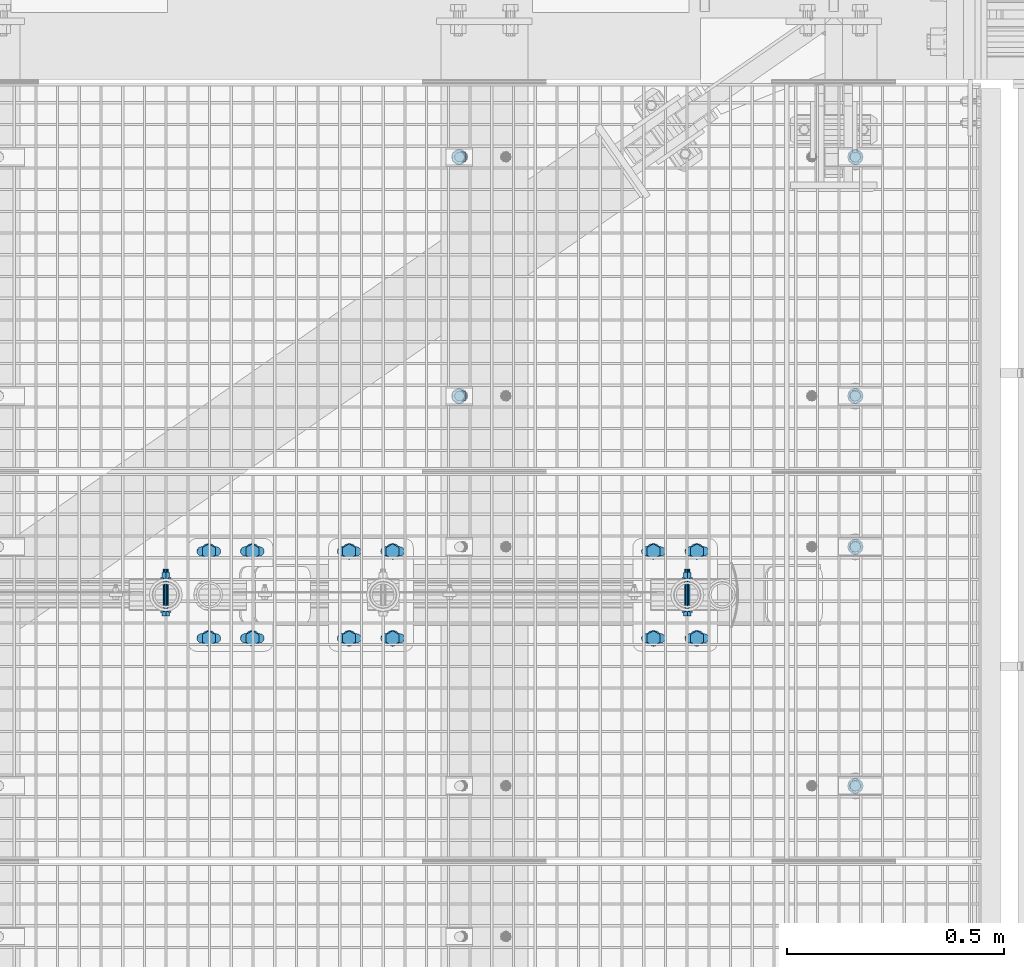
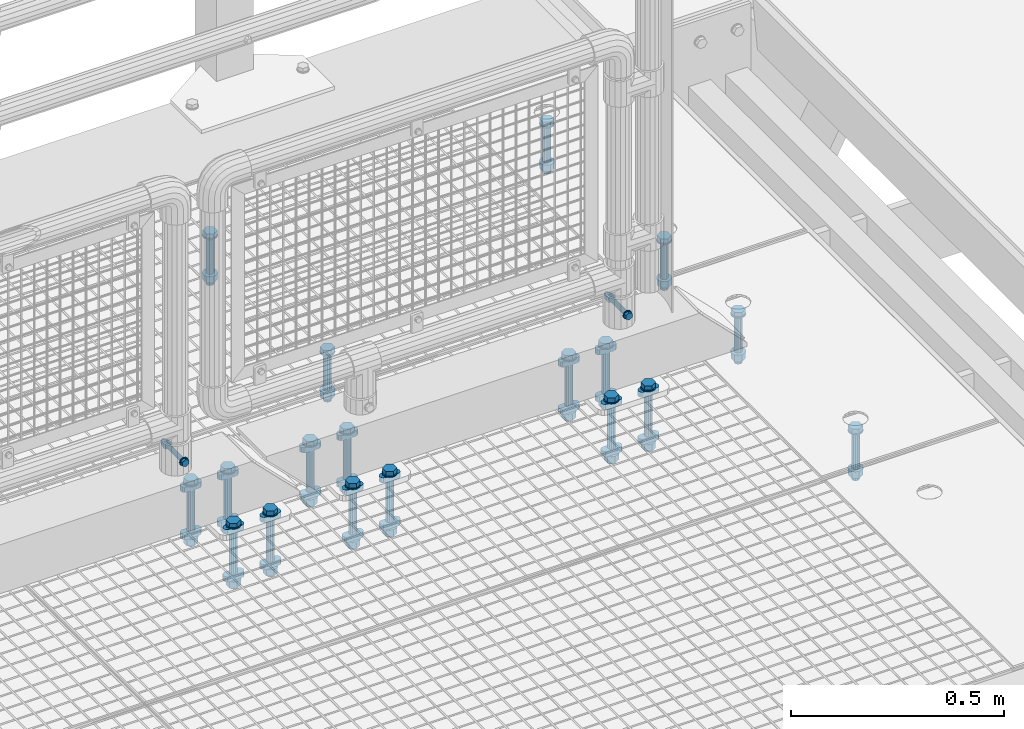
# One storey, part 56 of 1530: 8 mechanical fasteners.
"""IFC2X3 building model written with IfcOpenShell, lengths in millimetres."""

from ifc_helpers import new_model, si_unit, frame, origin_with_axes, place, context, subcontext, project, spatial, faceted_brep, source, transform, mapped, material, type_object, element, save


model = new_model("IFC2X3")

# Units and contexts
model_context = context("Model", 3, precision=1e-05, world=origin_with_axes())
body_context = subcontext(model_context, "Body", "Model", "MODEL_VIEW")
ifc_project = project(units=[si_unit("LENGTHUNIT", "METRE", prefix="MILLI"), si_unit("AREAUNIT", "SQUARE_METRE"), si_unit("VOLUMEUNIT", "CUBIC_METRE"), si_unit("MASSUNIT", "GRAM", prefix="KILO"), si_unit("TIMEUNIT", "SECOND"), si_unit("PLANEANGLEUNIT", "RADIAN"), si_unit("SOLIDANGLEUNIT", "STERADIAN"), si_unit("THERMODYNAMICTEMPERATUREUNIT", "DEGREE_CELSIUS"), si_unit("LUMINOUSINTENSITYUNIT", "LUMEN")], contexts=[model_context])

# Site, building, storey
site_placement = place(None, origin_with_axes())
site = spatial("IfcSite", under=ifc_project, at=site_placement, Name="Brattvåg", CompositionType="ELEMENT")
building_placement = place(site_placement, origin_with_axes())
building = spatial("IfcBuilding", under=site, at=building_placement, Name="Undefined", CompositionType="ELEMENT")
storey_placement = place(building_placement, origin_with_axes())
storey = spatial("IfcBuildingStorey", under=building, at=storey_placement, Name="Undefined", CompositionType="ELEMENT", Elevation=0.0)

# Mechanical fasteners
ifc_material = material(Name="8")
mechanical_fastener_type = type_object("IfcMechanicalFastenerType", Name="Bolt assembly")
shared_shape_1 = source(origin_with_axes(), body_context, "Body", "Brep", [
    faceted_brep([(17.3205080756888, -10.5, 0.0), (8.66025403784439, -10.5, 15.0), (-8.66025403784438, -10.5, 15.0), (-17.3205080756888, -10.5, 2.12115047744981e-15), (-8.66025403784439, -10.5, -15.0), (8.66025403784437, -10.5, -15.0), (8.66025403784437, 2.0, -15.0), (-8.66025403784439, 2.0, -15.0), (-17.3205080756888, 2.0, 2.12115047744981e-15), (-8.66025403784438, 2.0, 15.0), (8.66025403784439, 2.0, 15.0), (17.3205080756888, 2.0, 0.0), (10.0, 2.0, 0.0), (8.66025403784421, 2.0, 5.0000000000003), (4.9999999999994, 2.0, 8.66025403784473), (-1.03633598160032e-12, 2.0, 10.0), (-5.00000000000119, 2.0, 8.6602540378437), (-8.66025403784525, 2.0, 4.99999999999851), (-10.0, 2.0, -2.07267196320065e-12), (-8.66025403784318, 2.0, -5.00000000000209), (-4.99999999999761, 2.0, -8.66025403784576), (3.09790571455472e-12, 2.0, -10.0), (5.00000000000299, 2.0, -8.66025403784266), (8.66025403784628, 2.0, -4.99999999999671), (8.66025403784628, 142.0, -4.99999999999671), (5.00000000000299, 142.0, -8.66025403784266), (3.09790571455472e-12, 142.0, -10.0), (-4.99999999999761, 142.0, -8.66025403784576), (-8.66025403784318, 142.0, -5.00000000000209), (-10.0, 142.0, -2.07267196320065e-12), (-8.66025403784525, 142.0, 4.99999999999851), (-5.00000000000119, 142.0, 8.6602540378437), (-1.03633598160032e-12, 142.0, 10.0), (4.9999999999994, 142.0, 8.66025403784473), (8.66025403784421, 142.0, 5.0000000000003), (10.0, 142.0, 0.0), (18.5, 2.0, 0.0), (16.0214699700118, 2.0, 9.25000000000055), (9.2499999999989, 2.0, 16.0214699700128), (-1.9172215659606e-12, 2.0, 18.5), (-9.25000000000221, 2.0, 16.0214699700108), (-16.0214699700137, 2.0, 9.24999999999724), (-18.5, 2.0, -3.83444313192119e-12), (-16.0214699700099, 2.0, -9.25000000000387), (-9.24999999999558, 2.0, -16.0214699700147), (5.73112557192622e-12, 2.0, -18.5), (9.25000000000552, 2.0, -16.0214699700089), (16.0214699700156, 2.0, -9.24999999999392), (16.0214699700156, 5.0, -9.24999999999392), (9.25000000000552, 5.0, -16.0214699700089), (5.73112557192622e-12, 5.0, -18.5), (-9.24999999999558, 5.0, -16.0214699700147), (-16.0214699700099, 5.0, -9.25000000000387), (-18.5, 5.0, -3.83444313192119e-12), (-16.0214699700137, 5.0, 9.24999999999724), (-9.25000000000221, 5.0, 16.0214699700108), (-1.9172215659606e-12, 5.0, 18.5), (9.2499999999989, 5.0, 16.0214699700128), (16.0214699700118, 5.0, 9.25000000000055), (18.5, 5.0, 0.0), (18.5, 109.998931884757, 0.0), (16.0214699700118, 109.998931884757, 9.25000000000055), (9.2499999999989, 109.998931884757, 16.0214699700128), (-1.9172215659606e-12, 109.998931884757, 18.5), (-9.25000000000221, 109.998931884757, 16.0214699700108), (-16.0214699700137, 109.998931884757, 9.24999999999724), (-18.5, 109.998931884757, -3.83444313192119e-12), (-16.0214699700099, 109.998931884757, -9.25000000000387), (-9.24999999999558, 109.998931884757, -16.0214699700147), (5.73112557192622e-12, 109.998931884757, -18.5), (9.25000000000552, 109.998931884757, -16.0214699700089), (16.0214699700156, 109.998931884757, -9.24999999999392), (16.0214699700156, 112.998931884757, -9.24999999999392), (9.25000000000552, 112.998931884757, -16.0214699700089), (5.73112557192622e-12, 112.998931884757, -18.5), (-9.24999999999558, 112.998931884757, -16.0214699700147), (-16.0214699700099, 112.998931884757, -9.25000000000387), (-18.5, 112.998931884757, -3.83444313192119e-12), (-16.0214699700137, 112.998931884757, 9.24999999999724), (-9.25000000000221, 112.998931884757, 16.0214699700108), (-1.9172215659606e-12, 112.998931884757, 18.5), (9.2499999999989, 112.998931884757, 16.0214699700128), (16.0214699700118, 112.998931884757, 9.25000000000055), (18.5, 112.998931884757, 0.0), (17.3205080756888, 112.998931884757, 0.0), (8.66025403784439, 112.998931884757, 15.0), (-8.66025403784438, 112.998931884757, 15.0), (-17.3205080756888, 112.998931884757, 2.12115047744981e-15), (-8.66025403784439, 112.998931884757, -15.0), (8.66025403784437, 112.998931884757, -15.0), (8.66025403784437, 130.998931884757, -15.0), (-8.66025403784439, 130.998931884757, -15.0), (-17.3205080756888, 130.998931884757, 2.12115047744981e-15), (-8.66025403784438, 130.998931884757, 15.0), (8.66025403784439, 130.998931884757, 15.0), (17.3205080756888, 130.998931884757, 0.0)], [[[0, 1, 2, 3, 4, 5]], [[6, 7, 8, 9, 10, 11]], [[0, 11, 10, 1]], [[1, 10, 9, 2]], [[2, 9, 8, 3]], [[3, 8, 7, 4]], [[4, 7, 6, 5]], [[5, 6, 11, 0]], [[12, 13, 14, 15, 16, 17, 18, 19, 20, 21, 22, 23]], [[24, 25, 26, 27, 28, 29, 30, 31, 32, 33, 34, 35]], [[12, 35, 34, 13]], [[13, 34, 33, 14]], [[14, 33, 32, 15]], [[15, 32, 31, 16]], [[16, 31, 30, 17]], [[17, 30, 29, 18]], [[18, 29, 28, 19]], [[19, 28, 27, 20]], [[20, 27, 26, 21]], [[21, 26, 25, 22]], [[22, 25, 24, 23]], [[23, 24, 35, 12]], [[36, 37, 38, 39, 40, 41, 42, 43, 44, 45, 46, 47]], [[48, 49, 50, 51, 52, 53, 54, 55, 56, 57, 58, 59]], [[36, 59, 58, 37]], [[37, 58, 57, 38]], [[38, 57, 56, 39]], [[39, 56, 55, 40]], [[40, 55, 54, 41]], [[41, 54, 53, 42]], [[42, 53, 52, 43]], [[43, 52, 51, 44]], [[44, 51, 50, 45]], [[45, 50, 49, 46]], [[46, 49, 48, 47]], [[47, 48, 59, 36]], [[60, 61, 62, 63, 64, 65, 66, 67, 68, 69, 70, 71]], [[72, 73, 74, 75, 76, 77, 78, 79, 80, 81, 82, 83]], [[60, 83, 82, 61]], [[61, 82, 81, 62]], [[62, 81, 80, 63]], [[63, 80, 79, 64]], [[64, 79, 78, 65]], [[65, 78, 77, 66]], [[66, 77, 76, 67]], [[67, 76, 75, 68]], [[68, 75, 74, 69]], [[69, 74, 73, 70]], [[70, 73, 72, 71]], [[71, 72, 83, 60]], [[84, 85, 86, 87, 88, 89]], [[90, 91, 92, 93, 94, 95]], [[84, 95, 94, 85]], [[85, 94, 93, 86]], [[86, 93, 92, 87]], [[87, 92, 91, 88]], [[88, 91, 90, 89]], [[89, 90, 95, 84]]]),
])
for number, where, z_axis, x_axis, name in (
    (1, (16607.7533454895, 8122.00118255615, -25.0), (-1.0, 1.99999855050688e-09, 0.0), (0.0, 1.0, 0.0), "Bolt assembly"),
    (2, (15696.2016601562, 8121.99964141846, -25.0), (-1.0, 1.99999855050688e-09, 0.0), (0.0, 1.0, 0.0), "Bolt assembly"),
    (3, (16607.7533454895, 7225.00118255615, -25.0), (-1.0, 1.99999855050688e-09, 0.0), (0.0, 1.0, 0.0), "Bolt assembly"),
):
    element("IfcMechanicalFastener", number, at=place(storey_placement, frame(where, z_axis=z_axis, x_axis=x_axis)), inside=storey, type_object=mechanical_fastener_type, material=ifc_material, Name=name, NominalDiameter=20.0, NominalLength=140.0, context=body_context, shape_type="MappedRepresentation", body=[
        mapped(shared_shape_1, transform((0.0, 0.0, 0.0))),
        mapped(shared_shape_1, transform((549.999999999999, 0.0, 0.0))),
    ])
shared_shape_2 = source(origin_with_axes(), body_context, "Body", "Brep", [
    faceted_brep([(17.3205080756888, -15.5000000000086, 0.0), (8.66025403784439, -15.5000000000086, 15.0), (-8.66025403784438, -15.5000000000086, 15.0), (-17.3205080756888, -15.5000000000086, 2.12115047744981e-15), (-8.66025403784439, -15.5000000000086, -15.0), (8.66025403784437, -15.5000000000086, -15.0), (8.66025403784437, -3.00000000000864, -15.0), (-8.66025403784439, -3.00000000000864, -15.0), (-17.3205080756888, -3.00000000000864, 2.12115047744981e-15), (-8.66025403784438, -3.00000000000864, 15.0), (8.66025403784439, -3.00000000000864, 15.0), (17.3205080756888, -3.00000000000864, 0.0), (10.0, -3.00000000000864, 0.0), (8.66025403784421, -3.00000000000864, 5.0000000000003), (4.9999999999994, -3.00000000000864, 8.66025403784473), (-1.03633598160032e-12, -3.00000000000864, 10.0), (-5.00000000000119, -3.00000000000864, 8.6602540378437), (-8.66025403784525, -3.00000000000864, 4.99999999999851), (-10.0, -3.00000000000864, -2.07267196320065e-12), (-8.66025403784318, -3.00000000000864, -5.00000000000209), (-4.99999999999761, -3.00000000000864, -8.66025403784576), (3.09790571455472e-12, -3.00000000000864, -10.0), (5.00000000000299, -3.00000000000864, -8.66025403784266), (8.66025403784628, -3.00000000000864, -4.99999999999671), (8.66025403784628, 176.999999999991, -4.99999999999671), (5.00000000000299, 176.999999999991, -8.66025403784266), (3.09790571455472e-12, 176.999999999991, -10.0), (-4.99999999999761, 176.999999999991, -8.66025403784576), (-8.66025403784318, 176.999999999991, -5.00000000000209), (-10.0, 176.999999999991, -2.07267196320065e-12), (-8.66025403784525, 176.999999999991, 4.99999999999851), (-5.00000000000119, 176.999999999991, 8.6602540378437), (-1.03633598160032e-12, 176.999999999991, 10.0), (4.9999999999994, 176.999999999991, 8.66025403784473), (8.66025403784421, 176.999999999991, 5.0000000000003), (10.0, 176.999999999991, 0.0), (18.5, -3.00000000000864, 0.0), (16.0214699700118, -3.00000000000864, 9.25000000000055), (9.2499999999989, -3.00000000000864, 16.0214699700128), (-1.9172215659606e-12, -3.00000000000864, 18.5), (-9.25000000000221, -3.00000000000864, 16.0214699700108), (-16.0214699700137, -3.00000000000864, 9.24999999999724), (-18.5, -3.00000000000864, -3.83444313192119e-12), (-16.0214699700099, -3.00000000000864, -9.25000000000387), (-9.24999999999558, -3.00000000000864, -16.0214699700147), (5.73112557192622e-12, -3.00000000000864, -18.5), (9.25000000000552, -3.00000000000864, -16.0214699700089), (16.0214699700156, -3.00000000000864, -9.24999999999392), (16.0214699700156, -8.64019966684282e-12, -9.24999999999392), (9.25000000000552, -8.64019966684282e-12, -16.0214699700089), (5.73112557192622e-12, -8.64019966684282e-12, -18.5), (-9.24999999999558, -8.64019966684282e-12, -16.0214699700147), (-16.0214699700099, -8.64019966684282e-12, -9.25000000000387), (-18.5, -8.64019966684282e-12, -3.83444313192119e-12), (-16.0214699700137, -8.64019966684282e-12, 9.24999999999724), (-9.25000000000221, -8.64019966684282e-12, 16.0214699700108), (-1.9172215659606e-12, -8.64019966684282e-12, 18.5), (9.2499999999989, -8.64019966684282e-12, 16.0214699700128), (16.0214699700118, -8.64019966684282e-12, 9.25000000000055), (18.5, -8.64019966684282e-12, 0.0), (18.5, 149.999999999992, 0.0), (16.0214699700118, 149.999999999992, 9.25000000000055), (9.2499999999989, 149.999999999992, 16.0214699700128), (-1.9172215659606e-12, 149.999999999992, 18.5), (-9.25000000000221, 149.999999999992, 16.0214699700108), (-16.0214699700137, 149.999999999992, 9.24999999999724), (-18.5, 149.999999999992, -3.83444313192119e-12), (-16.0214699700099, 149.999999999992, -9.25000000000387), (-9.24999999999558, 149.999999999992, -16.0214699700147), (5.73112557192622e-12, 149.999999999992, -18.5), (9.25000000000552, 149.999999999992, -16.0214699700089), (16.0214699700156, 149.999999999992, -9.24999999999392), (16.0214699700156, 152.999999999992, -9.24999999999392), (9.25000000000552, 152.999999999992, -16.0214699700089), (5.73112557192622e-12, 152.999999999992, -18.5), (-9.24999999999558, 152.999999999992, -16.0214699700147), (-16.0214699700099, 152.999999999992, -9.25000000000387), (-18.5, 152.999999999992, -3.83444313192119e-12), (-16.0214699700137, 152.999999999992, 9.24999999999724), (-9.25000000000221, 152.999999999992, 16.0214699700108), (-1.9172215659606e-12, 152.999999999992, 18.5), (9.2499999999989, 152.999999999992, 16.0214699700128), (16.0214699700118, 152.999999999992, 9.25000000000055), (18.5, 152.999999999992, 0.0), (17.3205080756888, 152.999999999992, 0.0), (8.66025403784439, 152.999999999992, 15.0), (-8.66025403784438, 152.999999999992, 15.0), (-17.3205080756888, 152.999999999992, 2.12115047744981e-15), (-8.66025403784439, 152.999999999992, -15.0), (8.66025403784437, 152.999999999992, -15.0), (8.66025403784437, 170.999999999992, -15.0), (-8.66025403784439, 170.999999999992, -15.0), (-17.3205080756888, 170.999999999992, 2.12115047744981e-15), (-8.66025403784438, 170.999999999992, 15.0), (8.66025403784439, 170.999999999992, 15.0), (17.3205080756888, 170.999999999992, 0.0)], [[[0, 1, 2, 3, 4, 5]], [[6, 7, 8, 9, 10, 11]], [[0, 11, 10, 1]], [[1, 10, 9, 2]], [[2, 9, 8, 3]], [[3, 8, 7, 4]], [[4, 7, 6, 5]], [[5, 6, 11, 0]], [[12, 13, 14, 15, 16, 17, 18, 19, 20, 21, 22, 23]], [[24, 25, 26, 27, 28, 29, 30, 31, 32, 33, 34, 35]], [[12, 35, 34, 13]], [[13, 34, 33, 14]], [[14, 33, 32, 15]], [[15, 32, 31, 16]], [[16, 31, 30, 17]], [[17, 30, 29, 18]], [[18, 29, 28, 19]], [[19, 28, 27, 20]], [[20, 27, 26, 21]], [[21, 26, 25, 22]], [[22, 25, 24, 23]], [[23, 24, 35, 12]], [[36, 37, 38, 39, 40, 41, 42, 43, 44, 45, 46, 47]], [[48, 49, 50, 51, 52, 53, 54, 55, 56, 57, 58, 59]], [[36, 59, 58, 37]], [[37, 58, 57, 38]], [[38, 57, 56, 39]], [[39, 56, 55, 40]], [[40, 55, 54, 41]], [[41, 54, 53, 42]], [[42, 53, 52, 43]], [[43, 52, 51, 44]], [[44, 51, 50, 45]], [[45, 50, 49, 46]], [[46, 49, 48, 47]], [[47, 48, 59, 36]], [[60, 61, 62, 63, 64, 65, 66, 67, 68, 69, 70, 71]], [[72, 73, 74, 75, 76, 77, 78, 79, 80, 81, 82, 83]], [[60, 83, 82, 61]], [[61, 82, 81, 62]], [[62, 81, 80, 63]], [[63, 80, 79, 64]], [[64, 79, 78, 65]], [[65, 78, 77, 66]], [[66, 77, 76, 67]], [[67, 76, 75, 68]], [[68, 75, 74, 69]], [[69, 74, 73, 70]], [[70, 73, 72, 71]], [[71, 72, 83, 60]], [[84, 85, 86, 87, 88, 89]], [[90, 91, 92, 93, 94, 95]], [[84, 95, 94, 85]], [[85, 94, 93, 86]], [[86, 93, 92, 87]], [[87, 92, 91, 88]], [[88, 91, 90, 89]], [[89, 90, 95, 84]]]),
    faceted_brep([(11.0, 0.0999999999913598, 16.5), (10.162674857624, 0.0999999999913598, 20.7095177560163), (7.77817459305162, 0.0999999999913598, 24.2781745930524), (-1.13996957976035e-12, 0.0999999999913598, 27.5), (-5.50000000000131, 0.0999999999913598, 26.0262794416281), (-9.52627944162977, 0.0999999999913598, 21.9999999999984), (-11.0, 0.0999999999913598, 16.4999999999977), (-11.0, 0.0999999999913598, -16.5000000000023), (-9.5262794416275, 0.0999999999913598, -22.0000000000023), (-5.49999999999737, 0.0999999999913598, -26.0262794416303), (3.40769628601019e-12, 0.0999999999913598, -27.5), (5.50000000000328, 0.0999999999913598, -26.0262794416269), (9.52627944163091, 0.0999999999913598, -21.9999999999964), (11.0, 0.0999999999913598, -16.4999999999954), (11.0, 15.0999999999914, -16.4999999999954), (9.52627944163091, 15.0999999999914, -21.9999999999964), (5.50000000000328, 15.0999999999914, -26.0262794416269), (3.40769628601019e-12, 15.0999999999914, -27.5), (-5.49999999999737, 15.0999999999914, -26.0262794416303), (-9.5262794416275, 15.0999999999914, -22.0000000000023), (-11.0, 15.0999999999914, -16.5000000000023), (-11.0, 15.0999999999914, 16.4999999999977), (-9.52627944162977, 15.0999999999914, 21.9999999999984), (-5.50000000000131, 15.0999999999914, 26.0262794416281), (-1.13996957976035e-12, 15.0999999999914, 27.5), (4.2095177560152, 15.0999999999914, 26.6626748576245), (7.77817459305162, 15.0999999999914, 24.2781745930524), (10.162674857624, 15.0999999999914, 20.7095177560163), (11.0, 15.0999999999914, 16.5), (4.2095177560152, 0.0999999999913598, 26.6626748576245), (11.0, 134.899999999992, 16.5), (10.162674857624, 134.899999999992, 20.7095177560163), (7.77817459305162, 134.899999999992, 24.2781745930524), (-1.13996957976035e-12, 134.899999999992, 27.5), (-5.50000000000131, 134.899999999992, 26.0262794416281), (-9.52627944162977, 134.899999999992, 21.9999999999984), (-11.0, 134.899999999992, 16.4999999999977), (-11.0, 134.899999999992, -16.5000000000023), (-9.5262794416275, 134.899999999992, -22.0000000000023), (-5.49999999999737, 134.899999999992, -26.0262794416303), (3.40769628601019e-12, 134.899999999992, -27.5), (5.50000000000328, 134.899999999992, -26.0262794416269), (9.52627944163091, 134.899999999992, -21.9999999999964), (11.0, 134.899999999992, -16.4999999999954), (11.0, 149.999999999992, -16.4999999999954), (9.52627944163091, 149.999999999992, -21.9999999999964), (5.50000000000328, 149.999999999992, -26.0262794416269), (3.40769628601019e-12, 149.999999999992, -27.5), (-5.49999999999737, 149.999999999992, -26.0262794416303), (-9.5262794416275, 149.999999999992, -22.0000000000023), (-11.0, 149.999999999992, -16.5000000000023), (-11.0, 149.999999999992, 16.4999999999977), (-9.52627944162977, 149.999999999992, 21.9999999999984), (-5.50000000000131, 149.999999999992, 26.0262794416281), (-1.13996957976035e-12, 149.999999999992, 27.5), (4.2095177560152, 149.999999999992, 26.6626748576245), (7.77817459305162, 149.999999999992, 24.2781745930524), (10.162674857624, 149.999999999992, 20.7095177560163), (11.0, 149.999999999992, 16.5), (4.2095177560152, 134.899999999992, 26.6626748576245)], [[[0, 1, 2, 3, 4, 5, 6, 7, 8, 9, 10, 11, 12, 13]], [[14, 15, 16, 17, 18, 19, 20, 21, 22, 23, 24, 25, 26, 27, 28]], [[0, 28, 27, 1]], [[1, 27, 26, 2]], [[2, 26, 25, 29]], [[29, 25, 24, 3]], [[3, 24, 23, 4]], [[4, 23, 22, 5]], [[5, 22, 21, 6]], [[6, 21, 20, 7]], [[7, 20, 19, 8]], [[8, 19, 18, 9]], [[9, 18, 17, 10]], [[10, 17, 16, 11]], [[11, 16, 15, 12]], [[12, 15, 14, 13]], [[13, 14, 28, 0]], [[30, 31, 32, 33, 34, 35, 36, 37, 38, 39, 40, 41, 42, 43]], [[44, 45, 46, 47, 48, 49, 50, 51, 52, 53, 54, 55, 56, 57, 58]], [[30, 58, 57, 31]], [[31, 57, 56, 32]], [[32, 56, 55, 59]], [[59, 55, 54, 33]], [[33, 54, 53, 34]], [[34, 53, 52, 35]], [[35, 52, 51, 36]], [[36, 51, 50, 37]], [[37, 50, 49, 38]], [[38, 49, 48, 39]], [[39, 48, 47, 40]], [[40, 47, 46, 41]], [[41, 46, 45, 42]], [[42, 45, 44, 43]], [[43, 44, 58, 30]]]),
])
for number, where, z_axis, x_axis, name in (
    (4, (15169.9996795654, 7564.4994392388, 15.0000839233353), (-1.0, 1.99999855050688e-09, 0.0), (0.0, 1.0, 0.0), "Bolt assembly"),
    (5, (15492.9996795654, 7564.4994392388, 15.0000839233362), (-1.0, 1.99999855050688e-09, 0.0), (0.0, 1.0, 0.0), "Bolt assembly"),
    (6, (16192.9996795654, 7564.4994392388, 15.0000839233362), (-1.0, 1.99999855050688e-09, 0.0), (0.0, 1.0, 0.0), "Bolt assembly"),
):
    element("IfcMechanicalFastener", number, at=place(storey_placement, frame(where, z_axis=z_axis, x_axis=x_axis)), inside=storey, type_object=mechanical_fastener_type, material=ifc_material, Name=name, NominalDiameter=20.0, NominalLength=180.0, context=body_context, shape_type="MappedRepresentation", body=[
        mapped(shared_shape_2, transform((0.0, 0.0, -50.0))),
        mapped(shared_shape_2, transform((200.0, 0.0, -50.0))),
        mapped(shared_shape_2, transform((0.0, 0.0, 50.0))),
        mapped(shared_shape_2, transform((200.0, 0.0, 50.0))),
    ])
shared_shape_3 = source(origin_with_axes(), body_context, "Body", "Brep", [
    faceted_brep([(10.3923048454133, -9.99524588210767, 0.0), (5.19615242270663, -9.99524588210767, 9.0), (-5.19615242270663, -9.99524588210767, 9.0), (-10.3923048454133, -9.99524588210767, 1.27269028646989e-15), (-5.19615242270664, -9.99524588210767, -9.0), (5.19615242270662, -9.99524588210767, -9.0), (5.19615242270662, -2.49524588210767, -9.0), (-5.19615242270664, -2.49524588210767, -9.0), (-10.3923048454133, -2.49524588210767, 1.27269028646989e-15), (-5.19615242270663, -2.49524588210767, 9.0), (5.19615242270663, -2.49524588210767, 9.0), (10.3923048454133, -2.49524588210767, 0.0), (6.0, -2.49524588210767, 0.0), (5.19615242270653, -2.49524588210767, 3.00000000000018), (2.99999999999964, -2.49524588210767, 5.19615242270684), (-6.21801588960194e-13, -2.49524588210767, 6.0), (-3.00000000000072, -2.49524588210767, 5.19615242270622), (-5.19615242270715, -2.49524588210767, 2.9999999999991), (-6.0, -2.49524588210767, -1.24360317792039e-12), (-5.19615242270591, -2.49524588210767, -3.00000000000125), (-2.99999999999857, -2.49524588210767, -5.19615242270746), (1.85874342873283e-12, -2.49524588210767, -6.0), (3.00000000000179, -2.49524588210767, -5.1961524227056), (5.19615242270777, -2.49524588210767, -2.99999999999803), (5.19615242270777, 97.5047541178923, -2.99999999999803), (3.00000000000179, 97.5047541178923, -5.1961524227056), (1.85874342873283e-12, 97.5047541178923, -6.0), (-2.99999999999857, 97.5047541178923, -5.19615242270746), (-5.19615242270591, 97.5047541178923, -3.00000000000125), (-6.0, 97.5047541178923, -1.24360317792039e-12), (-5.19615242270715, 97.5047541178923, 2.9999999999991), (-3.00000000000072, 97.5047541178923, 5.19615242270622), (-6.21801588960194e-13, 97.5047541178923, 6.0), (2.99999999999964, 97.5047541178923, 5.19615242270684), (5.19615242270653, 97.5047541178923, 3.00000000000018), (6.0, 97.5047541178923, 0.0), (12.0, -2.49524588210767, 0.0), (10.3923048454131, -2.49524588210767, 6.00000000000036), (5.99999999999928, -2.49524588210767, 10.3923048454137), (-1.24360317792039e-12, -2.49524588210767, 12.0), (-6.00000000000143, -2.49524588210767, 10.3923048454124), (-10.3923048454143, -2.49524588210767, 5.99999999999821), (-12.0, -2.49524588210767, -2.48720635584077e-12), (-10.3923048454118, -2.49524588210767, -6.00000000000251), (-5.99999999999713, -2.49524588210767, -10.3923048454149), (3.71748685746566e-12, -2.49524588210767, -12.0), (6.00000000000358, -2.49524588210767, -10.3923048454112), (10.3923048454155, -2.49524588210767, -5.99999999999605), (10.3923048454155, 0.00475411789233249, -5.99999999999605), (6.00000000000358, 0.00475411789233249, -10.3923048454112), (3.71748685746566e-12, 0.00475411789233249, -12.0), (-5.99999999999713, 0.00475411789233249, -10.3923048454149), (-10.3923048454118, 0.00475411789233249, -6.00000000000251), (-12.0, 0.00475411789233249, -2.48720635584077e-12), (-10.3923048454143, 0.00475411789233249, 5.99999999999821), (-6.00000000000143, 0.00475411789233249, 10.3923048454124), (-1.24360317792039e-12, 0.00475411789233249, 12.0), (5.99999999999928, 0.00475411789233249, 10.3923048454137), (10.3923048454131, 0.00475411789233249, 6.00000000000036), (12.0, 0.00475411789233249, 0.0), (12.0, 76.1029826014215, 0.0), (10.3923048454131, 76.1029826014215, 6.00000000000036), (5.99999999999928, 76.1029826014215, 10.3923048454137), (-1.24360317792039e-12, 76.1029826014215, 12.0), (-6.00000000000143, 76.1029826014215, 10.3923048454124), (-10.3923048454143, 76.1029826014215, 5.99999999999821), (-12.0, 76.1029826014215, -2.48720635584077e-12), (-10.3923048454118, 76.1029826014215, -6.00000000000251), (-5.99999999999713, 76.1029826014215, -10.3923048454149), (3.71748685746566e-12, 76.1029826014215, -12.0), (6.00000000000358, 76.1029826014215, -10.3923048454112), (10.3923048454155, 76.1029826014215, -5.99999999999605), (10.3923048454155, 78.6029826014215, -5.99999999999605), (6.00000000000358, 78.6029826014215, -10.3923048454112), (3.71748685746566e-12, 78.6029826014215, -12.0), (-5.99999999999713, 78.6029826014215, -10.3923048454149), (-10.3923048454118, 78.6029826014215, -6.00000000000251), (-12.0, 78.6029826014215, -2.48720635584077e-12), (-10.3923048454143, 78.6029826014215, 5.99999999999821), (-6.00000000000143, 78.6029826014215, 10.3923048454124), (-1.24360317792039e-12, 78.6029826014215, 12.0), (5.99999999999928, 78.6029826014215, 10.3923048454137), (10.3923048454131, 78.6029826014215, 6.00000000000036), (12.0, 78.6029826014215, 0.0), (10.3923048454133, 78.6029826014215, 0.0), (5.19615242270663, 78.6029826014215, 9.0), (-5.19615242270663, 78.6029826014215, 9.0), (-10.3923048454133, 78.6029826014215, 1.27269028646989e-15), (-5.19615242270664, 78.6029826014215, -9.0), (5.19615242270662, 78.6029826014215, -9.0), (5.19615242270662, 89.4029827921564, -9.0), (-5.19615242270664, 89.4029827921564, -9.0), (-10.3923048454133, 89.4029827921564, 1.27269028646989e-15), (-5.19615242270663, 89.4029827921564, 9.0), (5.19615242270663, 89.4029827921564, 9.0), (10.3923048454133, 89.4029827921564, 0.0)], [[[0, 1, 2, 3, 4, 5]], [[6, 7, 8, 9, 10, 11]], [[0, 11, 10, 1]], [[1, 10, 9, 2]], [[2, 9, 8, 3]], [[3, 8, 7, 4]], [[4, 7, 6, 5]], [[5, 6, 11, 0]], [[12, 13, 14, 15, 16, 17, 18, 19, 20, 21, 22, 23]], [[24, 25, 26, 27, 28, 29, 30, 31, 32, 33, 34, 35]], [[12, 35, 34, 13]], [[13, 34, 33, 14]], [[14, 33, 32, 15]], [[15, 32, 31, 16]], [[16, 31, 30, 17]], [[17, 30, 29, 18]], [[18, 29, 28, 19]], [[19, 28, 27, 20]], [[20, 27, 26, 21]], [[21, 26, 25, 22]], [[22, 25, 24, 23]], [[23, 24, 35, 12]], [[36, 37, 38, 39, 40, 41, 42, 43, 44, 45, 46, 47]], [[48, 49, 50, 51, 52, 53, 54, 55, 56, 57, 58, 59]], [[36, 59, 58, 37]], [[37, 58, 57, 38]], [[38, 57, 56, 39]], [[39, 56, 55, 40]], [[40, 55, 54, 41]], [[41, 54, 53, 42]], [[42, 53, 52, 43]], [[43, 52, 51, 44]], [[44, 51, 50, 45]], [[45, 50, 49, 46]], [[46, 49, 48, 47]], [[47, 48, 59, 36]], [[60, 61, 62, 63, 64, 65, 66, 67, 68, 69, 70, 71]], [[72, 73, 74, 75, 76, 77, 78, 79, 80, 81, 82, 83]], [[60, 83, 82, 61]], [[61, 82, 81, 62]], [[62, 81, 80, 63]], [[63, 80, 79, 64]], [[64, 79, 78, 65]], [[65, 78, 77, 66]], [[66, 77, 76, 67]], [[67, 76, 75, 68]], [[68, 75, 74, 69]], [[69, 74, 73, 70]], [[70, 73, 72, 71]], [[71, 72, 83, 60]], [[84, 85, 86, 87, 88, 89]], [[90, 91, 92, 93, 94, 95]], [[84, 95, 94, 85]], [[85, 94, 93, 86]], [[86, 93, 92, 87]], [[87, 92, 91, 88]], [[88, 91, 90, 89]], [[89, 90, 95, 84]]]),
    faceted_brep([(6.5, 0.104754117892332, 0.0), (5.62916512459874, 0.104754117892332, 3.25000000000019), (3.24999999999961, 0.104754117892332, 5.62916512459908), (-6.7361838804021e-13, 0.104754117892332, 6.5), (-3.25000000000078, 0.104754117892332, 5.6291651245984), (-5.62916512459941, 0.104754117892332, 3.24999999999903), (-6.5, 0.104754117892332, -1.34723677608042e-12), (-5.62916512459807, 0.104754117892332, -3.25000000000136), (-3.24999999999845, 0.104754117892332, -5.62916512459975), (2.01363871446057e-12, 0.104754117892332, -6.5), (3.25000000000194, 0.104754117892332, -5.62916512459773), (5.62916512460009, 0.104754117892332, -3.24999999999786), (5.62916512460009, 76.2029826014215, -3.24999999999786), (3.25000000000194, 76.2029826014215, -5.62916512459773), (2.01363871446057e-12, 76.2029826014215, -6.5), (-3.24999999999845, 76.2029826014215, -5.62916512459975), (-5.62916512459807, 76.2029826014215, -3.25000000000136), (-6.5, 76.2029826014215, -1.34723677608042e-12), (-5.62916512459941, 76.2029826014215, 3.24999999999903), (-3.25000000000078, 76.2029826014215, 5.6291651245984), (-6.7361838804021e-13, 76.2029826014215, 6.5), (3.24999999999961, 76.2029826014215, 5.62916512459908), (5.62916512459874, 76.2029826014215, 3.25000000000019), (6.5, 76.2029826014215, 0.0), (6.5, 7.80509808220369, 0.0), (5.62916512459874, 7.80509808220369, 3.25000000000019), (3.24999999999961, 7.80509808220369, 5.62916512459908), (-6.7361838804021e-13, 7.80509808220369, 6.5), (-3.25000000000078, 7.80509808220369, 5.6291651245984), (-5.62916512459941, 7.80509808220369, 3.24999999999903), (-6.5, 7.80509808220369, -1.34723677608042e-12), (-5.62916512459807, 7.80509808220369, -3.25000000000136), (-3.24999999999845, 7.80509808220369, -5.62916512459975), (2.01363871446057e-12, 7.80509808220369, -6.5), (3.25000000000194, 7.80509808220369, -5.62916512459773), (5.62916512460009, 7.80509808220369, -3.24999999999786), (5.62916512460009, 68.2033458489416, -3.24999999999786), (3.25000000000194, 68.2033458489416, -5.62916512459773), (2.01363871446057e-12, 68.2033458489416, -6.5), (-3.24999999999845, 68.2033458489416, -5.62916512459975), (-5.62916512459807, 68.2033458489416, -3.25000000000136), (-6.5, 68.2033458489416, -1.34723677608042e-12), (-5.62916512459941, 68.2033458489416, 3.24999999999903), (-3.25000000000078, 68.2033458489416, 5.6291651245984), (-6.7361838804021e-13, 68.2033458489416, 6.5), (3.24999999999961, 68.2033458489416, 5.62916512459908), (5.62916512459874, 68.2033458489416, 3.25000000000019), (6.5, 68.2033458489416, 0.0)], [[[0, 1, 2, 3, 4, 5, 6, 7, 8, 9, 10, 11]], [[12, 13, 14, 15, 16, 17, 18, 19, 20, 21, 22, 23]], [[0, 23, 22, 1]], [[1, 22, 21, 2]], [[2, 21, 20, 3]], [[3, 20, 19, 4]], [[4, 19, 18, 5]], [[5, 18, 17, 6]], [[6, 17, 16, 7]], [[7, 16, 15, 8]], [[8, 15, 14, 9]], [[9, 14, 13, 10]], [[10, 13, 12, 11]], [[11, 12, 23, 0]], [[24, 25, 26, 27, 28, 29, 30, 31, 32, 33, 34, 35]], [[36, 37, 38, 39, 40, 41, 42, 43, 44, 45, 46, 47]], [[24, 47, 46, 25]], [[25, 46, 45, 26]], [[26, 45, 44, 27]], [[27, 44, 43, 28]], [[28, 43, 42, 29]], [[29, 42, 41, 30]], [[30, 41, 40, 31]], [[31, 40, 39, 32]], [[32, 39, 38, 33]], [[33, 38, 37, 34]], [[34, 37, 36, 35]], [[35, 36, 47, 24]]]),
])
for number, where, z_axis, x_axis, name in (
    (7, (15020.9951044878, 7626.4447316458, 194.999988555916), (1.0, 0.0, 0.0), (0.0, 0.0, -1.0), "Bolt assembly"),
    (8, (16220.9951044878, 7626.4447316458, 194.999988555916), (1.0, 0.0, 0.0), (0.0, 0.0, -1.0), "Bolt assembly"),
):
    element("IfcMechanicalFastener", number, at=place(storey_placement, frame(where, z_axis=z_axis, x_axis=x_axis)), inside=storey, type_object=mechanical_fastener_type, material=ifc_material, Name=name, NominalDiameter=12.0, NominalLength=100.0, context=body_context, shape_type="MappedRepresentation", body=[
        mapped(shared_shape_3, transform((0.0, 0.0, 0.0))),
    ])

save(model, "model.ifc")
